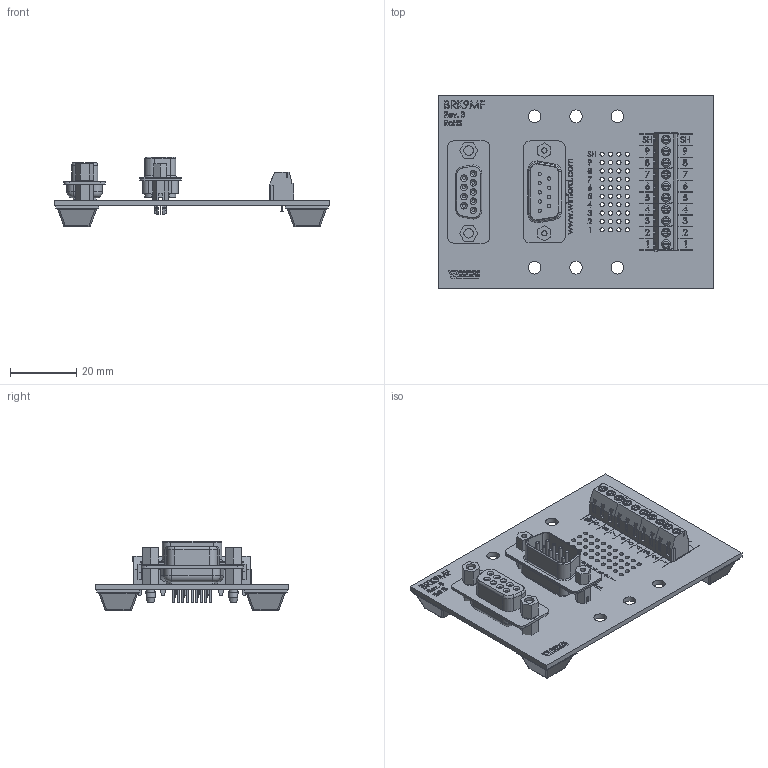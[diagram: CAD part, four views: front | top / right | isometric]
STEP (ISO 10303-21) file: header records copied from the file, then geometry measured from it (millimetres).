
FILE_DESCRIPTION (( 'STEP AP214' ), '1' );
FILE_NAME ('brk9mf-s-ft_rev_b.step', '2017-05-11T03:23:38', ( '' ), ( '' ), 'SwSTEP 2.0', 'SolidWorks 2017', '' );
FILE_SCHEMA (( 'AUTOMOTIVE_DESIGN' ));
Length unit declared in the file: inch
Products named in the file (7): Screw Terminal 2; Straight Male Connector; Straight Female Connector; Square Rubber Feet; BRK9MF Board; Screw Terminal 3; brk9mf-s-ft_rev_b
Assembly tree (11 placements, depth 2):
  brk9mf-s-ft_rev_b
    BRK9MF Board
    Straight Female Connector
    Straight Male Connector
    Screw Terminal 2  x2
    Screw Terminal 3  x2
    Square Rubber Feet  x4
Bounding box: 83.31 x 58.42 x 20.94 mm (x, y, z)
Volume: 12473 mm3; surface area: 19915.8 mm2
Topology: 8 solids, 47 shells, 2525 faces, 6620 edges, 4362 vertices
Faces by surface type: plane 1633, bspline 444, cylinder 379, cone 27, torus 26, sphere 16
Full cylindrical faces by diameter (mm): 0.025 x4, 0.6 x18, 0.9 x9, 1 x18, 1.016 x16, 1.092 x10, 1.27 x40, 1.5 x9, 1.587 x2, 2 x20, 2.68 x10, 2.75 x10, 2.845 x2, 3.302 x4, 3.81 x6, 4.52 x2
Entity records: 99933 total; most frequent: CARTESIAN_POINT 36650, ORIENTED_EDGE 10164, DIRECTION 8034, EDGE_CURVE 5126, VECTOR 3556, LINE 3556, VERTEX_POINT 3517, EDGE_LOOP 2579
